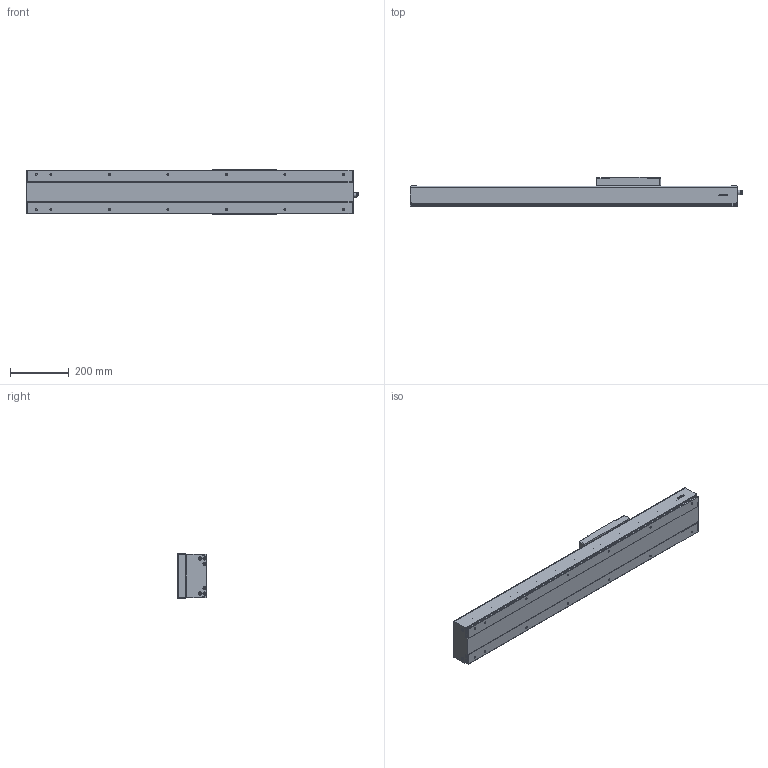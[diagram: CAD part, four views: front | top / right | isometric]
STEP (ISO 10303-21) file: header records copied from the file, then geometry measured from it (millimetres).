
FILE_DESCRIPTION(/* description */ (''),/* implementation_level */ '2;1');
FILE_NAME(/* name */ 'D:\混合母檔20191031\混和母檔\混和母檔\bin\Debug\Download\3D\KS150-20C-600AFI\KS150-20C-600AFI.stp',/* time_stamp */ '2019-11-04T15:59:47+08:00',/* author */ ('user'),/* organization */ (''),/* preprocessor_version */ 'ST-DEVELOPER v16.13',/* originating_system */ 'Autodesk Inventor 2018',/* authorisation */ '');
FILE_SCHEMA (('AUTOMOTIVE_DESIGN { 1 0 10303 214 3 1 1 }'));
Length unit declared in the file: millimetre
Products named in the file (3): KS150-20C-600AFI; KS150-FI; KS150-SL
Assembly tree (2 placements, depth 2):
  KS150-20C-600AFI
    KS150-FI
    KS150-SL
Bounding box: 1135.05 x 100 x 152.4 mm (x, y, z)
Volume: 4836111.5 mm3; surface area: 1144195.6 mm2
Topology: 4 solids, 8 shells, 1241 faces, 3275 edges, 2124 vertices
Faces by surface type: plane 615, cone 228, cylinder 190, bspline 136, torus 68, sphere 4
Full cylindrical faces by diameter (mm): 3.242 x12, 3.571 x8, 4.134 x4, 4.5 x8, 4.509 x6, 4.917 x4, 5 x18, 5.5 x12, 6 x2, 6.647 x18, 8 x4, 8.4 x8, 9.3 x12, 10.437 x1, 12 x1, 14 x1, 15 x1, 15.538 x1, 23 x1, 46 x1, 50 x1
Entity records: 40968 total; most frequent: CARTESIAN_POINT 12720, ORIENTED_EDGE 5840, DIRECTION 5425, EDGE_CURVE 2920, VERTEX_POINT 2016, AXIS2_PLACEMENT_3D 1880, LINE 1665, VECTOR 1665
